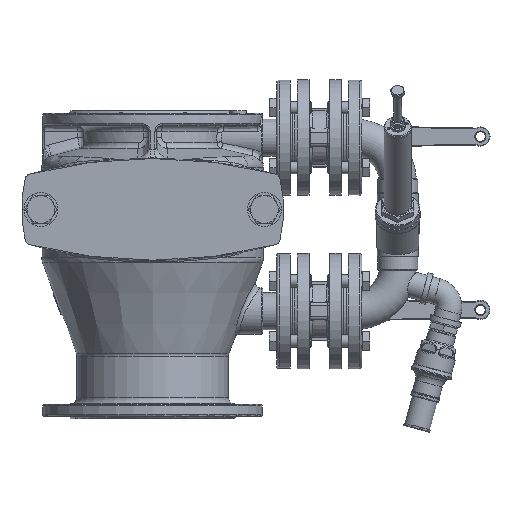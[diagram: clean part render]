
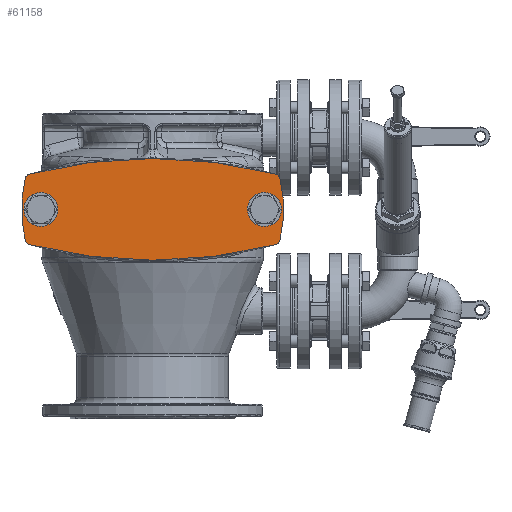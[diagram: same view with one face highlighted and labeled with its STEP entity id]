
A CAD part, left-side view. The second image highlights one B-rep face of the part: STEP entity #61158.
In plain terms, the highlighted planar face has unit normal (-1, 0, 0).
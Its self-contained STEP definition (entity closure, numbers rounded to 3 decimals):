
#50359=CARTESIAN_POINT('',(-196.0,167.0,0.0));
#50360=VERTEX_POINT('',#50359);
#50361=CARTESIAN_POINT('',(-196.0,145.0,0.0));
#50362=DIRECTION('',(1.0,0.0,0.0));
#50363=DIRECTION('',(0.0,1.0,0.0));
#50364=AXIS2_PLACEMENT_3D('',#50361,#50362,#50363);
#50365=CIRCLE('',#50364,22.0);
#50366=EDGE_CURVE('',#50360,#50360,#50365,.T.);
#50379=CARTESIAN_POINT('',(-196.0,-123.0,0.0));
#50380=VERTEX_POINT('',#50379);
#50381=CARTESIAN_POINT('',(-196.0,-145.0,0.0));
#50382=DIRECTION('',(1.0,0.0,0.0));
#50383=DIRECTION('',(0.0,1.0,0.0));
#50384=AXIS2_PLACEMENT_3D('',#50381,#50382,#50383);
#50385=CIRCLE('',#50384,22.0);
#50386=EDGE_CURVE('',#50380,#50380,#50385,.T.);
#61073=CARTESIAN_POINT('',(-196.0,0.0,0.0));
#61074=DIRECTION('',(1.0,0.0,0.0));
#61075=DIRECTION('',(0.0,-1.0,0.0));
#61076=AXIS2_PLACEMENT_3D('',#61073,#61074,#61075);
#61077=PLANE('',#61076);
#61078=CARTESIAN_POINT('',(-196.0,165.239,-39.95));
#61079=VERTEX_POINT('',#61078);
#61080=CARTESIAN_POINT('',(-196.0,159.457,-45.817));
#61081=VERTEX_POINT('',#61080);
#61082=CARTESIAN_POINT('',(-196.0,157.463,-38.07));
#61083=DIRECTION('',(-1.0,0.0,0.0));
#61084=DIRECTION('',(0.0,0.972,-0.235));
#61085=AXIS2_PLACEMENT_3D('',#61082,#61083,#61084);
#61086=CIRCLE('',#61085,8.0);
#61087=EDGE_CURVE('',#61079,#61081,#61086,.T.);
#61088=ORIENTED_EDGE('',*,*,#61087,.T.);
#61089=CARTESIAN_POINT('',(-196.0,-159.457,-45.817));
#61090=VERTEX_POINT('',#61089);
#61091=CARTESIAN_POINT('',(-196.0,0.0,574.0));
#61092=DIRECTION('',(1.0,0.0,0.0));
#61093=DIRECTION('',(0.0,-0.249,-0.968));
#61094=AXIS2_PLACEMENT_3D('',#61091,#61092,#61093);
#61095=CIRCLE('',#61094,640.);
#61096=EDGE_CURVE('',#61090,#61081,#61095,.T.);
#61097=ORIENTED_EDGE('',*,*,#61096,.F.);
#61098=CARTESIAN_POINT('',(-196.0,-165.239,-39.95));
#61099=VERTEX_POINT('',#61098);
#61100=CARTESIAN_POINT('',(-196.0,-157.463,-38.07));
#61101=DIRECTION('',(-1.0,0.0,0.0));
#61102=DIRECTION('',(0.0,-0.249,-0.968));
#61103=AXIS2_PLACEMENT_3D('',#61100,#61101,#61102);
#61104=CIRCLE('',#61103,8.0);
#61105=EDGE_CURVE('',#61090,#61099,#61104,.T.);
#61106=ORIENTED_EDGE('',*,*,#61105,.T.);
#61107=CARTESIAN_POINT('',(-196.0,-165.239,39.95));
#61108=VERTEX_POINT('',#61107);
#61109=CARTESIAN_POINT('',(-196.0,0.0,0.0));
#61110=DIRECTION('',(1.0,0.0,0.0));
#61111=DIRECTION('',(0.0,-0.972,0.235));
#61112=AXIS2_PLACEMENT_3D('',#61109,#61110,#61111);
#61113=CIRCLE('',#61112,170.0);
#61114=EDGE_CURVE('',#61108,#61099,#61113,.T.);
#61115=ORIENTED_EDGE('',*,*,#61114,.F.);
#61116=CARTESIAN_POINT('',(-196.0,-159.457,45.817));
#61117=VERTEX_POINT('',#61116);
#61118=CARTESIAN_POINT('',(-196.0,-157.463,38.07));
#61119=DIRECTION('',(-1.0,0.0,0.0));
#61120=DIRECTION('',(0.0,-0.972,0.235));
#61121=AXIS2_PLACEMENT_3D('',#61118,#61119,#61120);
#61122=CIRCLE('',#61121,8.);
#61123=EDGE_CURVE('',#61108,#61117,#61122,.T.);
#61124=ORIENTED_EDGE('',*,*,#61123,.T.);
#61125=CARTESIAN_POINT('',(-196.0,159.457,45.817));
#61126=VERTEX_POINT('',#61125);
#61127=CARTESIAN_POINT('',(-196.0,0.0,-574.0));
#61128=DIRECTION('',(1.0,0.0,0.0));
#61129=DIRECTION('',(0.0,0.249,0.968));
#61130=AXIS2_PLACEMENT_3D('',#61127,#61128,#61129);
#61131=CIRCLE('',#61130,640.);
#61132=EDGE_CURVE('',#61126,#61117,#61131,.T.);
#61133=ORIENTED_EDGE('',*,*,#61132,.F.);
#61134=CARTESIAN_POINT('',(-196.0,165.239,39.95));
#61135=VERTEX_POINT('',#61134);
#61136=CARTESIAN_POINT('',(-196.0,157.463,38.07));
#61137=DIRECTION('',(-1.0,0.0,0.0));
#61138=DIRECTION('',(0.0,0.249,0.968));
#61139=AXIS2_PLACEMENT_3D('',#61136,#61137,#61138);
#61140=CIRCLE('',#61139,8.0);
#61141=EDGE_CURVE('',#61126,#61135,#61140,.T.);
#61142=ORIENTED_EDGE('',*,*,#61141,.T.);
#61143=CARTESIAN_POINT('',(-196.0,0.0,0.0));
#61144=DIRECTION('',(1.0,0.0,0.0));
#61145=DIRECTION('',(0.0,0.972,-0.235));
#61146=AXIS2_PLACEMENT_3D('',#61143,#61144,#61145);
#61147=CIRCLE('',#61146,170.0);
#61148=EDGE_CURVE('',#61079,#61135,#61147,.T.);
#61149=ORIENTED_EDGE('',*,*,#61148,.F.);
#61150=EDGE_LOOP('',(#61088,#61097,#61106,#61115,#61124,#61133,#61142,#61149));
#61151=FACE_OUTER_BOUND('',#61150,.T.);
#61152=ORIENTED_EDGE('',*,*,#50366,.T.);
#61153=EDGE_LOOP('',(#61152));
#61154=FACE_BOUND('',#61153,.T.);
#61155=ORIENTED_EDGE('',*,*,#50386,.T.);
#61156=EDGE_LOOP('',(#61155));
#61157=FACE_BOUND('',#61156,.T.);
#61158=ADVANCED_FACE('',(#61151,#61154,#61157),#61077,.F.);
